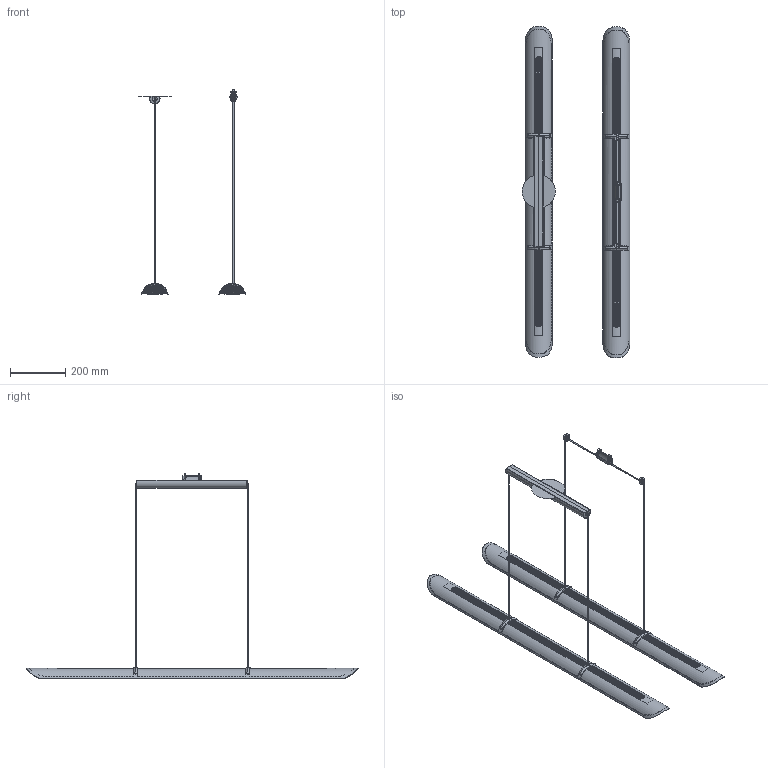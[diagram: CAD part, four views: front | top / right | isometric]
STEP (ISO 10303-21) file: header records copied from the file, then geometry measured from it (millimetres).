
FILE_DESCRIPTION(/* description */ (''),/* implementation_level */ '2;1');
FILE_NAME(/* name */ 'lani12',/* time_stamp */ '2025-09-01T11:02:25-03:00',/* author */ (''),/* organization */ (''),/* preprocessor_version */ 'ST-DEVELOPER v19.2',/* originating_system */ 'Rhino 8.22',/* authorisation */ '');
FILE_SCHEMA (('CONFIG_CONTROL_DESIGN'));
Length unit declared in the file: millimetre
Products named in the file (1): Document
Bounding box: 388.79 x 1198.34 x 741 mm (x, y, z)
Volume: 5126153.9 mm3; surface area: 1755825.2 mm2
Topology: 21 solids, 25 shells, 1320 faces, 3768 edges, 2488 vertices
Faces by surface type: bspline 1028, plane 186, cylinder 106
Entity records: 63122 total; most frequent: CARTESIAN_POINT 41019, ORIENTED_EDGE 7450, EDGE_CURVE 3758, VERTEX_POINT 2484, B_SPLINE_CURVE_WITH_KNOTS 2248, EDGE_LOOP 1332, ADVANCED_FACE 1320, FACE_OUTER_BOUND 1320
